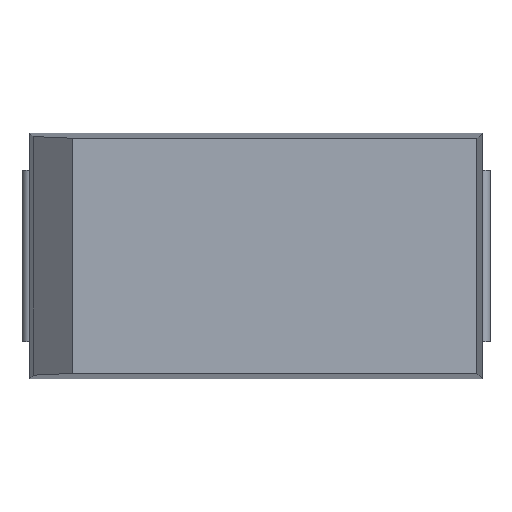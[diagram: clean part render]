
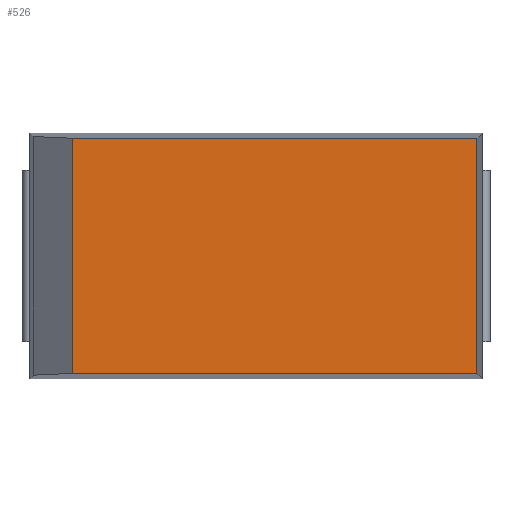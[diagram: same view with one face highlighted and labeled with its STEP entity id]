
A CAD part, top view. The second image highlights one B-rep face of the part: STEP entity #526.
In plain terms, the highlighted planar face has unit normal (0, 0, 1).
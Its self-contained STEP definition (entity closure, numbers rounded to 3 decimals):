
#63 = PLANE('',#64);
#64 = AXIS2_PLACEMENT_3D('',#65,#66,#67);
#65 = CARTESIAN_POINT('',(-2.9,-1.541,2.063));
#66 = DIRECTION('',(0.,0.999,-0.046));
#67 = DIRECTION('',(-1.,-0.,-0.));
#119 = PLANE('',#120);
#120 = AXIS2_PLACEMENT_3D('',#121,#122,#123);
#121 = CARTESIAN_POINT('',(-2.9,1.541,2.063));
#122 = DIRECTION('',(0.,0.999,0.046));
#123 = DIRECTION('',(-1.,0.,0.));
#145 = PLANE('',#146);
#146 = AXIS2_PLACEMENT_3D('',#147,#148,#149);
#147 = CARTESIAN_POINT('',(-2.602,-1.508,2.559));
#148 = DIRECTION('',(0.691,0.,-0.723));
#149 = DIRECTION('',(0.,1.,0.));
#190 = VERTEX_POINT('',#191);
#191 = CARTESIAN_POINT('',(2.833,-1.508,2.8));
#205 = PLANE('',#206);
#206 = AXIS2_PLACEMENT_3D('',#207,#208,#209);
#207 = CARTESIAN_POINT('',(2.866,-1.575,2.063));
#208 = DIRECTION('',(0.999,0.,0.046));
#209 = DIRECTION('',(0.,1.,0.));
#217 = EDGE_CURVE('',#218,#190,#220,.T.);
#218 = VERTEX_POINT('',#219);
#219 = CARTESIAN_POINT('',(-2.349,-1.508,2.8));
#220 = SURFACE_CURVE('',#221,(#225,#232),.PCURVE_S1.);
#221 = LINE('',#222,#223);
#222 = CARTESIAN_POINT('',(-2.9,-1.508,2.8));
#223 = VECTOR('',#224,1.);
#224 = DIRECTION('',(1.,0.,0.));
#225 = PCURVE('',#63,#226);
#226 = DEFINITIONAL_REPRESENTATION('',(#227),#231);
#227 = LINE('',#228,#229);
#228 = CARTESIAN_POINT('',(-0.,0.738));
#229 = VECTOR('',#230,1.);
#230 = DIRECTION('',(-1.,0.));
#231 = ( GEOMETRIC_REPRESENTATION_CONTEXT(2) 
PARAMETRIC_REPRESENTATION_CONTEXT() REPRESENTATION_CONTEXT('2D SPACE',''
  ) );
#232 = PCURVE('',#233,#238);
#233 = PLANE('',#234);
#234 = AXIS2_PLACEMENT_3D('',#235,#236,#237);
#235 = CARTESIAN_POINT('',(-2.9,-1.575,2.8));
#236 = DIRECTION('',(0.,0.,1.));
#237 = DIRECTION('',(1.,0.,0.));
#238 = DEFINITIONAL_REPRESENTATION('',(#239),#243);
#239 = LINE('',#240,#241);
#240 = CARTESIAN_POINT('',(0.,0.068));
#241 = VECTOR('',#242,1.);
#242 = DIRECTION('',(1.,0.));
#243 = ( GEOMETRIC_REPRESENTATION_CONTEXT(2) 
PARAMETRIC_REPRESENTATION_CONTEXT() REPRESENTATION_CONTEXT('2D SPACE',''
  ) );
#272 = VERTEX_POINT('',#273);
#273 = CARTESIAN_POINT('',(-2.349,1.508,2.8));
#294 = EDGE_CURVE('',#218,#272,#295,.T.);
#295 = SURFACE_CURVE('',#296,(#300,#307),.PCURVE_S1.);
#296 = LINE('',#297,#298);
#297 = CARTESIAN_POINT('',(-2.349,-1.508,2.8));
#298 = VECTOR('',#299,1.);
#299 = DIRECTION('',(0.,1.,0.));
#300 = PCURVE('',#145,#301);
#301 = DEFINITIONAL_REPRESENTATION('',(#302),#306);
#302 = LINE('',#303,#304);
#303 = CARTESIAN_POINT('',(0.,0.349));
#304 = VECTOR('',#305,1.);
#305 = DIRECTION('',(1.,0.));
#306 = ( GEOMETRIC_REPRESENTATION_CONTEXT(2) 
PARAMETRIC_REPRESENTATION_CONTEXT() REPRESENTATION_CONTEXT('2D SPACE',''
  ) );
#307 = PCURVE('',#233,#308);
#308 = DEFINITIONAL_REPRESENTATION('',(#309),#313);
#309 = LINE('',#310,#311);
#310 = CARTESIAN_POINT('',(0.551,0.068));
#311 = VECTOR('',#312,1.);
#312 = DIRECTION('',(0.,1.));
#313 = ( GEOMETRIC_REPRESENTATION_CONTEXT(2) 
PARAMETRIC_REPRESENTATION_CONTEXT() REPRESENTATION_CONTEXT('2D SPACE',''
  ) );
#424 = VERTEX_POINT('',#425);
#425 = CARTESIAN_POINT('',(2.833,1.508,2.8));
#446 = EDGE_CURVE('',#272,#424,#447,.T.);
#447 = SURFACE_CURVE('',#448,(#452,#459),.PCURVE_S1.);
#448 = LINE('',#449,#450);
#449 = CARTESIAN_POINT('',(-2.9,1.508,2.8));
#450 = VECTOR('',#451,1.);
#451 = DIRECTION('',(1.,0.,0.));
#452 = PCURVE('',#119,#453);
#453 = DEFINITIONAL_REPRESENTATION('',(#454),#458);
#454 = LINE('',#455,#456);
#455 = CARTESIAN_POINT('',(-0.,0.738));
#456 = VECTOR('',#457,1.);
#457 = DIRECTION('',(-1.,0.));
#458 = ( GEOMETRIC_REPRESENTATION_CONTEXT(2) 
PARAMETRIC_REPRESENTATION_CONTEXT() REPRESENTATION_CONTEXT('2D SPACE',''
  ) );
#459 = PCURVE('',#233,#460);
#460 = DEFINITIONAL_REPRESENTATION('',(#461),#465);
#461 = LINE('',#462,#463);
#462 = CARTESIAN_POINT('',(0.,3.083));
#463 = VECTOR('',#464,1.);
#464 = DIRECTION('',(1.,0.));
#465 = ( GEOMETRIC_REPRESENTATION_CONTEXT(2) 
PARAMETRIC_REPRESENTATION_CONTEXT() REPRESENTATION_CONTEXT('2D SPACE',''
  ) );
#526 = ADVANCED_FACE('',(#527),#233,.T.);
#527 = FACE_BOUND('',#528,.T.);
#528 = EDGE_LOOP('',(#529,#530,#551,#552));
#529 = ORIENTED_EDGE('',*,*,#217,.T.);
#530 = ORIENTED_EDGE('',*,*,#531,.T.);
#531 = EDGE_CURVE('',#190,#424,#532,.T.);
#532 = SURFACE_CURVE('',#533,(#537,#544),.PCURVE_S1.);
#533 = LINE('',#534,#535);
#534 = CARTESIAN_POINT('',(2.833,-1.575,2.8));
#535 = VECTOR('',#536,1.);
#536 = DIRECTION('',(0.,1.,0.));
#537 = PCURVE('',#233,#538);
#538 = DEFINITIONAL_REPRESENTATION('',(#539),#543);
#539 = LINE('',#540,#541);
#540 = CARTESIAN_POINT('',(5.733,0.));
#541 = VECTOR('',#542,1.);
#542 = DIRECTION('',(0.,1.));
#543 = ( GEOMETRIC_REPRESENTATION_CONTEXT(2) 
PARAMETRIC_REPRESENTATION_CONTEXT() REPRESENTATION_CONTEXT('2D SPACE',''
  ) );
#544 = PCURVE('',#205,#545);
#545 = DEFINITIONAL_REPRESENTATION('',(#546),#550);
#546 = LINE('',#547,#548);
#547 = CARTESIAN_POINT('',(0.,0.738));
#548 = VECTOR('',#549,1.);
#549 = DIRECTION('',(1.,0.));
#550 = ( GEOMETRIC_REPRESENTATION_CONTEXT(2) 
PARAMETRIC_REPRESENTATION_CONTEXT() REPRESENTATION_CONTEXT('2D SPACE',''
  ) );
#551 = ORIENTED_EDGE('',*,*,#446,.F.);
#552 = ORIENTED_EDGE('',*,*,#294,.F.);
